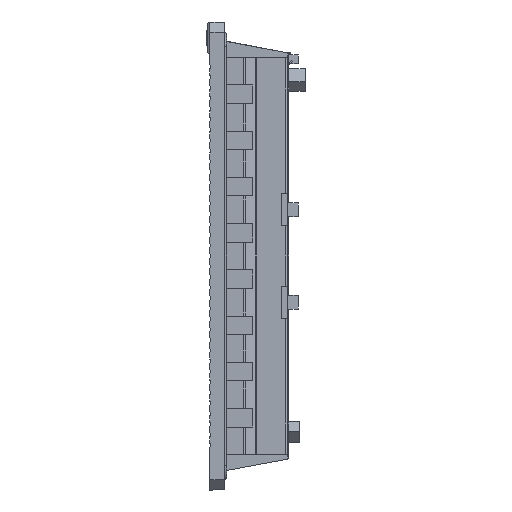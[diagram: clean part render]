
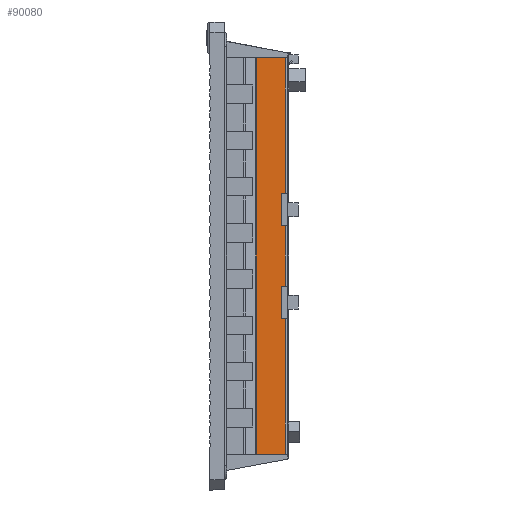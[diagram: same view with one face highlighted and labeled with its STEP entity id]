
A CAD part, left-side view. The second image highlights one B-rep face of the part: STEP entity #90080.
In plain terms, the highlighted planar face has unit normal (-1, 0, 0).
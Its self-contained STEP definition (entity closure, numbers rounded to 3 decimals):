
#445 = VERTEX_POINT ( 'NONE', #14641 ) ;
#1556 = VECTOR ( 'NONE', #85154, 1000. ) ;
#3647 = VECTOR ( 'NONE', #72725, 1000. ) ;
#4033 = DIRECTION ( 'NONE',  ( 0., -1., 0. ) ) ;
#4069 = CARTESIAN_POINT ( 'NONE',  ( -88.25, 0., 85.75 ) ) ;
#4223 = VECTOR ( 'NONE', #12560, 1000. ) ;
#4535 = LINE ( 'NONE', #4069, #50061 ) ;
#7724 = DIRECTION ( 'NONE',  ( 0., 0., -1. ) ) ;
#8001 = EDGE_CURVE ( 'NONE', #11658, #445, #33661, .T. ) ;
#11658 = VERTEX_POINT ( 'NONE', #47292 ) ;
#12560 = DIRECTION ( 'NONE',  ( 0., -1., 0. ) ) ;
#13694 = EDGE_CURVE ( 'NONE', #31999, #36877, #85491, .T. ) ;
#14313 = CARTESIAN_POINT ( 'NONE',  ( -88.25, 1., -13. ) ) ;
#14641 = CARTESIAN_POINT ( 'NONE',  ( -88.25, 1., 85.75 ) ) ;
#16327 = VERTEX_POINT ( 'NONE', #33313 ) ;
#16543 = DIRECTION ( 'NONE',  ( 0., 0., -1. ) ) ;
#18477 = EDGE_CURVE ( 'NONE', #16327, #52285, #28522, .T. ) ;
#19133 = LINE ( 'NONE', #83017, #64012 ) ;
#22105 = VECTOR ( 'NONE', #29387, 1000. ) ;
#22967 = EDGE_CURVE ( 'NONE', #39822, #52285, #64192, .T. ) ;
#22971 = LINE ( 'NONE', #49922, #22105 ) ;
#23669 = ORIENTED_EDGE ( 'NONE', *, *, #54009, .T. ) ;
#27313 = CARTESIAN_POINT ( 'NONE',  ( -88.25, 2.865, 27. ) ) ;
#27783 = EDGE_CURVE ( 'NONE', #11658, #82101, #42594, .T. ) ;
#28264 = ORIENTED_EDGE ( 'NONE', *, *, #13694, .T. ) ;
#28352 = ORIENTED_EDGE ( 'NONE', *, *, #18477, .T. ) ;
#28522 = LINE ( 'NONE', #56353, #4223 ) ;
#28840 = CARTESIAN_POINT ( 'NONE',  ( -88.25, 2.865, -13. ) ) ;
#29285 = EDGE_CURVE ( 'NONE', #61054, #445, #4535, .T. ) ;
#29367 = CARTESIAN_POINT ( 'NONE',  ( -88.25, 1., -85.75 ) ) ;
#29387 = DIRECTION ( 'NONE',  ( 0., 0., -1. ) ) ;
#30193 = EDGE_CURVE ( 'NONE', #57080, #90353, #52912, .T. ) ;
#31999 = VERTEX_POINT ( 'NONE', #71229 ) ;
#33313 = CARTESIAN_POINT ( 'NONE',  ( -88.25, 2.865, -13. ) ) ;
#33661 = LINE ( 'NONE', #53777, #49471 ) ;
#36590 = EDGE_LOOP ( 'NONE', ( #28352, #45334, #41996, #85061, #48163, #49875, #51775, #23669, #38951, #87057, #28264, #46076 ) ) ;
#36877 = VERTEX_POINT ( 'NONE', #86291 ) ;
#38951 = ORIENTED_EDGE ( 'NONE', *, *, #30193, .T. ) ;
#39822 = VERTEX_POINT ( 'NONE', #48448 ) ;
#41996 = ORIENTED_EDGE ( 'NONE', *, *, #48315, .F. ) ;
#42594 = LINE ( 'NONE', #70441, #63228 ) ;
#42801 = CARTESIAN_POINT ( 'NONE',  ( -88.25, 13.717, -85.75 ) ) ;
#42875 = LINE ( 'NONE', #50602, #80761 ) ;
#43517 = VECTOR ( 'NONE', #4033, 1000. ) ;
#45334 = ORIENTED_EDGE ( 'NONE', *, *, #22967, .F. ) ;
#46076 = ORIENTED_EDGE ( 'NONE', *, *, #55123, .T. ) ;
#47292 = CARTESIAN_POINT ( 'NONE',  ( -88.25, 1., 27. ) ) ;
#47528 = AXIS2_PLACEMENT_3D ( 'NONE', #60926, #86921, #66867 ) ;
#47768 = CARTESIAN_POINT ( 'NONE',  ( -88.25, 2.865, 13. ) ) ;
#48163 = ORIENTED_EDGE ( 'NONE', *, *, #27783, .F. ) ;
#48315 = EDGE_CURVE ( 'NONE', #89794, #39822, #19133, .T. ) ;
#48448 = CARTESIAN_POINT ( 'NONE',  ( -88.25, 1., 13. ) ) ;
#48486 = LINE ( 'NONE', #28840, #54778 ) ;
#49471 = VECTOR ( 'NONE', #55118, 1000. ) ;
#49875 = ORIENTED_EDGE ( 'NONE', *, *, #8001, .T. ) ;
#49922 = CARTESIAN_POINT ( 'NONE',  ( -88.25, 2.865, 13. ) ) ;
#50061 = VECTOR ( 'NONE', #87617, 1000. ) ;
#50602 = CARTESIAN_POINT ( 'NONE',  ( -88.25, 13.717, -85.75 ) ) ;
#50784 = LINE ( 'NONE', #79084, #64531 ) ;
#51775 = ORIENTED_EDGE ( 'NONE', *, *, #29285, .F. ) ;
#52285 = VERTEX_POINT ( 'NONE', #14313 ) ;
#52912 = LINE ( 'NONE', #88920, #43517 ) ;
#53777 = CARTESIAN_POINT ( 'NONE',  ( -88.25, 1., 85.75 ) ) ;
#54009 = EDGE_CURVE ( 'NONE', #61054, #57080, #42875, .T. ) ;
#54778 = VECTOR ( 'NONE', #56690, 1000. ) ;
#55118 = DIRECTION ( 'NONE',  ( 0., 0., 1. ) ) ;
#55123 = EDGE_CURVE ( 'NONE', #36877, #16327, #48486, .T. ) ;
#56353 = CARTESIAN_POINT ( 'NONE',  ( -88.25, -5.135, -13. ) ) ;
#56690 = DIRECTION ( 'NONE',  ( 0., 0., 1. ) ) ;
#57080 = VERTEX_POINT ( 'NONE', #42801 ) ;
#60635 = EDGE_CURVE ( 'NONE', #82101, #89794, #22971, .T. ) ;
#60926 = CARTESIAN_POINT ( 'NONE',  ( -88.25, 0., -85.75 ) ) ;
#61054 = VERTEX_POINT ( 'NONE', #74234 ) ;
#62038 = DIRECTION ( 'NONE',  ( 0., -1., 0. ) ) ;
#63228 = VECTOR ( 'NONE', #64930, 1000. ) ;
#63903 = EDGE_CURVE ( 'NONE', #31999, #90353, #50784, .T. ) ;
#64012 = VECTOR ( 'NONE', #62038, 1000. ) ;
#64192 = LINE ( 'NONE', #78315, #1556 ) ;
#64531 = VECTOR ( 'NONE', #16543, 1000. ) ;
#64930 = DIRECTION ( 'NONE',  ( 0., 1., 0. ) ) ;
#66867 = DIRECTION ( 'NONE',  ( 0., 1., 0. ) ) ;
#70441 = CARTESIAN_POINT ( 'NONE',  ( -88.25, -5.135, 27. ) ) ;
#71229 = CARTESIAN_POINT ( 'NONE',  ( -88.25, 1., -27. ) ) ;
#72725 = DIRECTION ( 'NONE',  ( 0., 1., 0. ) ) ;
#74234 = CARTESIAN_POINT ( 'NONE',  ( -88.25, 13.717, 85.75 ) ) ;
#78315 = CARTESIAN_POINT ( 'NONE',  ( -88.25, 1., -85.75 ) ) ;
#79084 = CARTESIAN_POINT ( 'NONE',  ( -88.25, 1., -85.75 ) ) ;
#80761 = VECTOR ( 'NONE', #7724, 1000. ) ;
#81908 = PLANE ( 'NONE',  #47528 ) ;
#82101 = VERTEX_POINT ( 'NONE', #27313 ) ;
#83017 = CARTESIAN_POINT ( 'NONE',  ( -88.25, -5.135, 13. ) ) ;
#85057 = CARTESIAN_POINT ( 'NONE',  ( -88.25, -5.135, -27. ) ) ;
#85061 = ORIENTED_EDGE ( 'NONE', *, *, #60635, .F. ) ;
#85154 = DIRECTION ( 'NONE',  ( 0., 0., -1. ) ) ;
#85491 = LINE ( 'NONE', #85057, #3647 ) ;
#86291 = CARTESIAN_POINT ( 'NONE',  ( -88.25, 2.865, -27. ) ) ;
#86921 = DIRECTION ( 'NONE',  ( -1., 0., 0. ) ) ;
#87057 = ORIENTED_EDGE ( 'NONE', *, *, #63903, .F. ) ;
#87617 = DIRECTION ( 'NONE',  ( 0., -1., 0. ) ) ;
#88286 = FACE_OUTER_BOUND ( 'NONE', #36590, .T. ) ;
#88920 = CARTESIAN_POINT ( 'NONE',  ( -88.25, 0., -85.75 ) ) ;
#89794 = VERTEX_POINT ( 'NONE', #47768 ) ;
#90080 = ADVANCED_FACE ( 'NONE', ( #88286 ), #81908, .T. ) ;
#90353 = VERTEX_POINT ( 'NONE', #29367 ) ;
